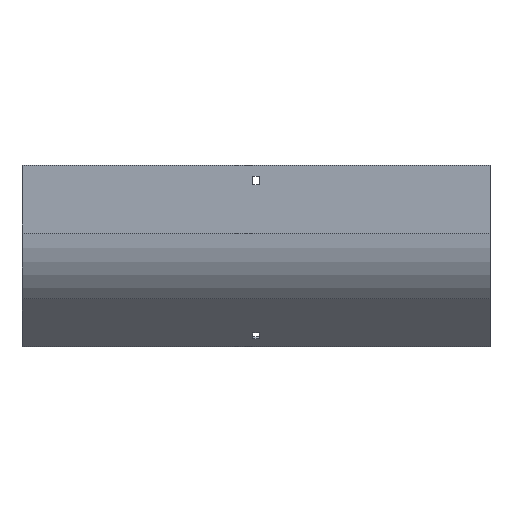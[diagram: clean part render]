
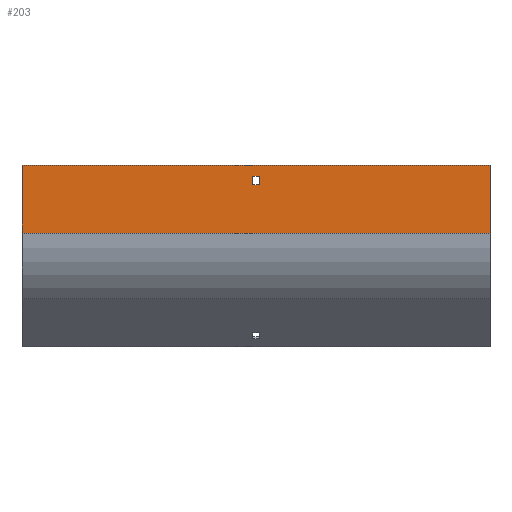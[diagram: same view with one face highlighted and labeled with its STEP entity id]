
A CAD part, front view. The second image highlights one B-rep face of the part: STEP entity #203.
In plain terms, the highlighted planar face has unit normal (0, -1, 0).
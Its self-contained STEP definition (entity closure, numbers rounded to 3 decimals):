
#86 = LINE ( 'NONE', #416, #1019 ) ;
#95 = VERTEX_POINT ( 'NONE', #355 ) ;
#96 = LINE ( 'NONE', #1921, #312 ) ;
#141 = VERTEX_POINT ( 'NONE', #503 ) ;
#199 = VERTEX_POINT ( 'NONE', #662 ) ;
#203 = ADVANCED_FACE ( 'NONE', ( #827, #369 ), #1713, .F. ) ;
#241 = EDGE_CURVE ( 'NONE', #141, #295, #1892, .T. ) ;
#277 = CARTESIAN_POINT ( 'NONE',  ( -252., -104., -73.078 ) ) ;
#282 = DIRECTION ( 'NONE',  ( -1., 0., 0. ) ) ;
#295 = VERTEX_POINT ( 'NONE', #1323 ) ;
#303 = DIRECTION ( 'NONE',  ( -1., 0., 0. ) ) ;
#312 = VECTOR ( 'NONE', #1888, 1000. ) ;
#337 = ORIENTED_EDGE ( 'NONE', *, *, #418, .T. ) ;
#342 = CARTESIAN_POINT ( 'NONE',  ( 3.25, -104., -12. ) ) ;
#355 = CARTESIAN_POINT ( 'NONE',  ( 252., -104., -73.078 ) ) ;
#361 = CARTESIAN_POINT ( 'NONE',  ( 252., -104., -73.078 ) ) ;
#369 = FACE_OUTER_BOUND ( 'NONE', #1801, .T. ) ;
#382 = ORIENTED_EDGE ( 'NONE', *, *, #557, .T. ) ;
#416 = CARTESIAN_POINT ( 'NONE',  ( -3.25, -104., -21. ) ) ;
#418 = EDGE_CURVE ( 'NONE', #600, #141, #1077, .T. ) ;
#438 = LINE ( 'NONE', #1210, #1062 ) ;
#458 = ORIENTED_EDGE ( 'NONE', *, *, #711, .T. ) ;
#492 = LINE ( 'NONE', #1850, #614 ) ;
#503 = CARTESIAN_POINT ( 'NONE',  ( -252., -104., 0. ) ) ;
#511 = CARTESIAN_POINT ( 'NONE',  ( 252., -104., -73.078 ) ) ;
#557 = EDGE_CURVE ( 'NONE', #199, #1273, #492, .T. ) ;
#600 = VERTEX_POINT ( 'NONE', #1243 ) ;
#614 = VECTOR ( 'NONE', #945, 1000. ) ;
#662 = CARTESIAN_POINT ( 'NONE',  ( -3.25, -104., -12. ) ) ;
#687 = EDGE_CURVE ( 'NONE', #1882, #199, #86, .T. ) ;
#711 = EDGE_CURVE ( 'NONE', #1273, #741, #96, .T. ) ;
#736 = EDGE_LOOP ( 'NONE', ( #1634, #1055, #382, #458 ) ) ;
#741 = VERTEX_POINT ( 'NONE', #1226 ) ;
#827 = FACE_BOUND ( 'NONE', #736, .T. ) ;
#945 = DIRECTION ( 'NONE',  ( 1., 0., 0. ) ) ;
#964 = DIRECTION ( 'NONE',  ( 0., 1., 0. ) ) ;
#1005 = CARTESIAN_POINT ( 'NONE',  ( -3.25, -104., -21. ) ) ;
#1019 = VECTOR ( 'NONE', #1464, 1000. ) ;
#1041 = DIRECTION ( 'NONE',  ( -1., 0., 0. ) ) ;
#1055 = ORIENTED_EDGE ( 'NONE', *, *, #687, .T. ) ;
#1056 = CARTESIAN_POINT ( 'NONE',  ( -3.25, -104., -21. ) ) ;
#1062 = VECTOR ( 'NONE', #282, 1000. ) ;
#1064 = VECTOR ( 'NONE', #1568, 1000. ) ;
#1077 = LINE ( 'NONE', #1373, #1896 ) ;
#1124 = EDGE_CURVE ( 'NONE', #95, #295, #438, .T. ) ;
#1151 = ORIENTED_EDGE ( 'NONE', *, *, #1124, .F. ) ;
#1161 = EDGE_CURVE ( 'NONE', #741, #1882, #1672, .T. ) ;
#1210 = CARTESIAN_POINT ( 'NONE',  ( 252., -104., -73.078 ) ) ;
#1226 = CARTESIAN_POINT ( 'NONE',  ( 3.25, -104., -21. ) ) ;
#1235 = ORIENTED_EDGE ( 'NONE', *, *, #1282, .F. ) ;
#1243 = CARTESIAN_POINT ( 'NONE',  ( 252., -104., 0. ) ) ;
#1273 = VERTEX_POINT ( 'NONE', #342 ) ;
#1282 = EDGE_CURVE ( 'NONE', #600, #95, #1854, .T. ) ;
#1300 = DIRECTION ( 'NONE',  ( 0., 0., -1. ) ) ;
#1323 = CARTESIAN_POINT ( 'NONE',  ( -252., -104., -73.078 ) ) ;
#1347 = AXIS2_PLACEMENT_3D ( 'NONE', #511, #964, #1439 ) ;
#1373 = CARTESIAN_POINT ( 'NONE',  ( 252., -104., 0. ) ) ;
#1391 = VECTOR ( 'NONE', #303, 1000. ) ;
#1439 = DIRECTION ( 'NONE',  ( 0., 0., 1. ) ) ;
#1464 = DIRECTION ( 'NONE',  ( 0., 0., 1. ) ) ;
#1568 = DIRECTION ( 'NONE',  ( 0., 0., -1. ) ) ;
#1629 = ORIENTED_EDGE ( 'NONE', *, *, #241, .T. ) ;
#1634 = ORIENTED_EDGE ( 'NONE', *, *, #1161, .T. ) ;
#1672 = LINE ( 'NONE', #1056, #1391 ) ;
#1713 = PLANE ( 'NONE',  #1347 ) ;
#1801 = EDGE_LOOP ( 'NONE', ( #1629, #1151, #1235, #337 ) ) ;
#1850 = CARTESIAN_POINT ( 'NONE',  ( -3.25, -104., -12. ) ) ;
#1854 = LINE ( 'NONE', #361, #1064 ) ;
#1865 = VECTOR ( 'NONE', #1300, 1000. ) ;
#1882 = VERTEX_POINT ( 'NONE', #1005 ) ;
#1888 = DIRECTION ( 'NONE',  ( 0., 0., -1. ) ) ;
#1892 = LINE ( 'NONE', #277, #1865 ) ;
#1896 = VECTOR ( 'NONE', #1041, 1000. ) ;
#1921 = CARTESIAN_POINT ( 'NONE',  ( 3.25, -104., -21. ) ) ;
